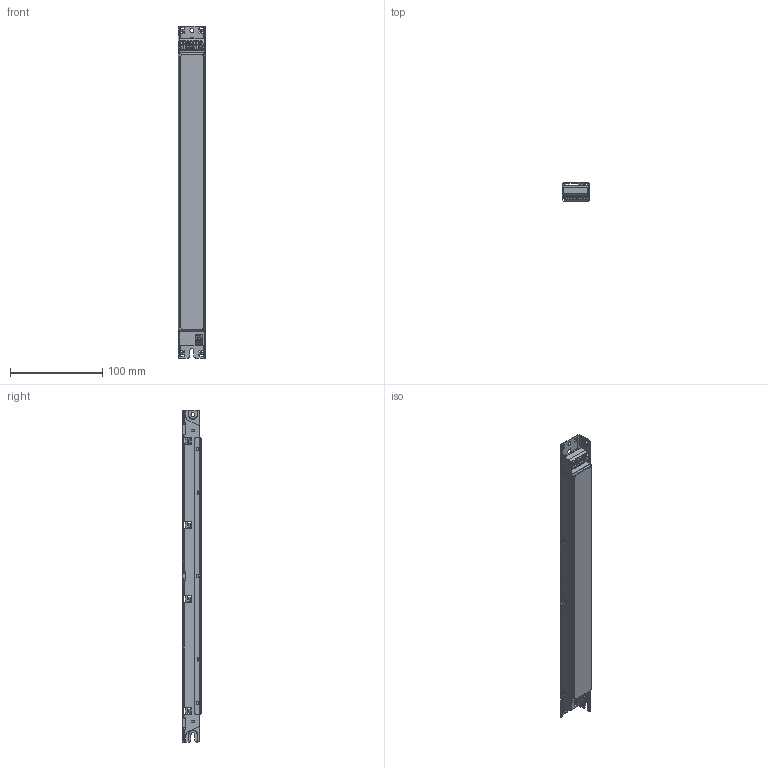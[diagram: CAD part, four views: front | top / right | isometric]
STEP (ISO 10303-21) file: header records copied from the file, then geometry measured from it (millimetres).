
FILE_DESCRIPTION(('Creo Elements/Direct Modeling STEP Export'),'2;1');
FILE_NAME('Linear 120W NFC Dali2 PMD.stp','2020-05-29T 7:43:45',(''),(''),'PTC Creo Elements/Direct Modeling STEP processor for AP214 (Solid Model)','PTC Creo Elements/Direct Modeling 19.0E 27-Jun-2016 (C) Parametric Technology GmbH','');
FILE_SCHEMA(('AUTOMOTIVE_DESIGN { 1 0 10303 214 1 1 1 1 }'));
Products named in the file (3): Casing; PCB; 3D_Linear_120W_NFC_DALI2_PMD
Assembly tree (2 placements, depth 2):
  3D_Linear_120W_NFC_DALI2_PMD
    PCB
    Casing
Bounding box: 30 x 21 x 359 mm (x, y, z)
Volume: 34527 mm3; surface area: 85492.6 mm2
Topology: 2 solids, 2 shells, 1552 faces, 4464 edges, 2854 vertices
Faces by surface type: plane 783, cylinder 573, bspline 142, cone 26, sphere 24, torus 4
Entity records: 77178 total; most frequent: CARTESIAN_POINT 34528, ORIENTED_EDGE 8880, DIRECTION 7314, EDGE_CURVE 4440, VERTEX_POINT 2854, VECTOR 2534, LINE 2534, AXIS2_PLACEMENT_3D 2390
